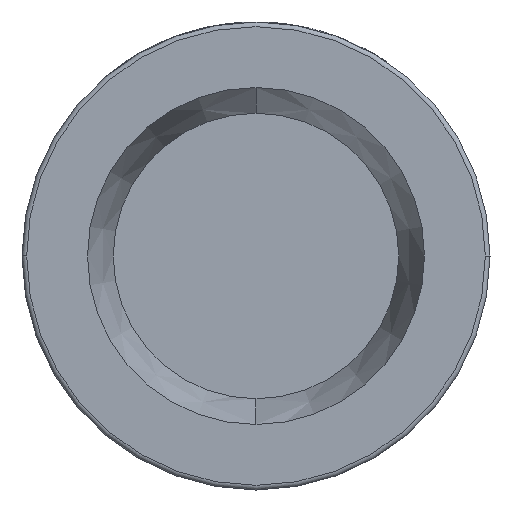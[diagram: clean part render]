
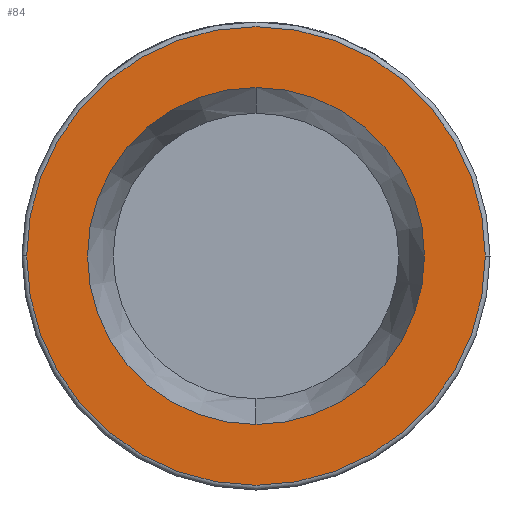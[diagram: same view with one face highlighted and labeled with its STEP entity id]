
A CAD part, front view. The second image highlights one B-rep face of the part: STEP entity #84.
In plain terms, the highlighted planar face has unit normal (0, -1, 0).
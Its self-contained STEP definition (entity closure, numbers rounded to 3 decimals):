
#2 = VERTEX_POINT ( 'NONE', #3853 ) ;
#17 = DIRECTION ( 'NONE',  ( 0., -1., 0. ) ) ;
#84 = ADVANCED_FACE ( 'NONE', ( #1658, #1699 ), #3115, .T. ) ;
#247 = CARTESIAN_POINT ( 'NONE',  ( 0., -32., 0. ) ) ;
#397 = CARTESIAN_POINT ( 'NONE',  ( 0., -32., -36. ) ) ;
#409 = CARTESIAN_POINT ( 'NONE',  ( 0., -32., 0. ) ) ;
#470 = CARTESIAN_POINT ( 'NONE',  ( 0., -32., 0. ) ) ;
#521 = CIRCLE ( 'NONE', #2446, 36. ) ;
#1091 = VERTEX_POINT ( 'NONE', #397 ) ;
#1118 = CIRCLE ( 'NONE', #1641, 36. ) ;
#1311 = VERTEX_POINT ( 'NONE', #2799 ) ;
#1400 = DIRECTION ( 'NONE',  ( 1., 0., 0. ) ) ;
#1443 = AXIS2_PLACEMENT_3D ( 'NONE', #4477, #4544, #4523 ) ;
#1452 = CARTESIAN_POINT ( 'NONE',  ( 0., -32., 0. ) ) ;
#1475 = DIRECTION ( 'NONE',  ( 1., 0., 0. ) ) ;
#1478 = CARTESIAN_POINT ( 'NONE',  ( -49., -32., 0. ) ) ;
#1641 = AXIS2_PLACEMENT_3D ( 'NONE', #1452, #17, #2841 ) ;
#1658 = FACE_BOUND ( 'NONE', #3433, .T. ) ;
#1699 = FACE_OUTER_BOUND ( 'NONE', #3244, .T. ) ;
#1819 = DIRECTION ( 'NONE',  ( 0., -1., 0. ) ) ;
#2071 = ORIENTED_EDGE ( 'NONE', *, *, #2242, .T. ) ;
#2184 = DIRECTION ( 'NONE',  ( 0., -1., 0. ) ) ;
#2242 = EDGE_CURVE ( 'NONE', #4129, #1311, #3847, .T. ) ;
#2301 = ORIENTED_EDGE ( 'NONE', *, *, #4375, .F. ) ;
#2446 = AXIS2_PLACEMENT_3D ( 'NONE', #470, #3685, #2574 ) ;
#2574 = DIRECTION ( 'NONE',  ( 0., 0., -1. ) ) ;
#2799 = CARTESIAN_POINT ( 'NONE',  ( 49., -32., 0. ) ) ;
#2841 = DIRECTION ( 'NONE',  ( 0., 0., -1. ) ) ;
#3115 = PLANE ( 'NONE',  #1443 ) ;
#3244 = EDGE_LOOP ( 'NONE', ( #4099, #2071 ) ) ;
#3433 = EDGE_LOOP ( 'NONE', ( #3846, #2301 ) ) ;
#3685 = DIRECTION ( 'NONE',  ( 0., -1., 0. ) ) ;
#3709 = EDGE_CURVE ( 'NONE', #1091, #2, #521, .T. ) ;
#3846 = ORIENTED_EDGE ( 'NONE', *, *, #3709, .F. ) ;
#3847 = CIRCLE ( 'NONE', #3922, 49. ) ;
#3853 = CARTESIAN_POINT ( 'NONE',  ( 0., -32., 36. ) ) ;
#3862 = AXIS2_PLACEMENT_3D ( 'NONE', #409, #1819, #1475 ) ;
#3922 = AXIS2_PLACEMENT_3D ( 'NONE', #247, #2184, #1400 ) ;
#4004 = CIRCLE ( 'NONE', #3862, 49. ) ;
#4099 = ORIENTED_EDGE ( 'NONE', *, *, #4570, .T. ) ;
#4129 = VERTEX_POINT ( 'NONE', #1478 ) ;
#4375 = EDGE_CURVE ( 'NONE', #2, #1091, #1118, .T. ) ;
#4477 = CARTESIAN_POINT ( 'NONE',  ( 50., -32., 0. ) ) ;
#4523 = DIRECTION ( 'NONE',  ( 1., 0., 0. ) ) ;
#4544 = DIRECTION ( 'NONE',  ( 0., -1., 0. ) ) ;
#4570 = EDGE_CURVE ( 'NONE', #1311, #4129, #4004, .T. ) ;
